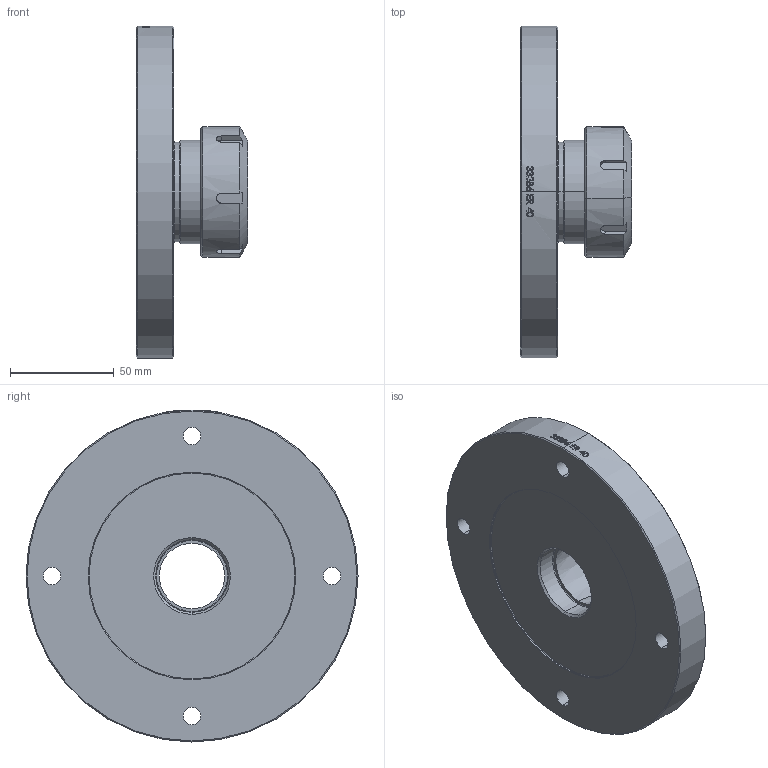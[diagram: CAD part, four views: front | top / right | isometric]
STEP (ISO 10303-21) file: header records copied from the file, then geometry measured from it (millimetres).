
FILE_DESCRIPTION (( 'STEP AP214' ), '1' );
FILE_NAME ('33286 FACE PLATE ER40 ASSY.STEP', '2015-07-16T20:33:06', ( '' ), ( '' ), 'SwSTEP 2.0', 'SolidWorks 2014', '' );
FILE_SCHEMA (( 'AUTOMOTIVE_DESIGN' ));
Length unit declared in the file: millimetre
Products named in the file (3): 33286 FACE PLATE ER40; 33286 FACE PLATE ER40 ASSY; 33286-2 ER40 SPANNER NUT
Assembly tree (2 placements, depth 2):
  33286 FACE PLATE ER40 ASSY
    33286 FACE PLATE ER40
    33286-2 ER40 SPANNER NUT
Bounding box: 53.5 x 160 x 160 mm (x, y, z)
Volume: 379188.6 mm3; surface area: 69904 mm2
Topology: 2 solids, 2 shells, 241 faces, 609 edges, 398 vertices
Faces by surface type: bspline 84, plane 74, cylinder 55, cone 20, torus 8
Entity records: 20292 total; most frequent: CARTESIAN_POINT 13493, ORIENTED_EDGE 1218, DIRECTION 812, EDGE_CURVE 609, VERTEX_POINT 398, AXIS2_PLACEMENT_3D 330, B_SPLINE_CURVE_WITH_KNOTS 289, EDGE_LOOP 279
